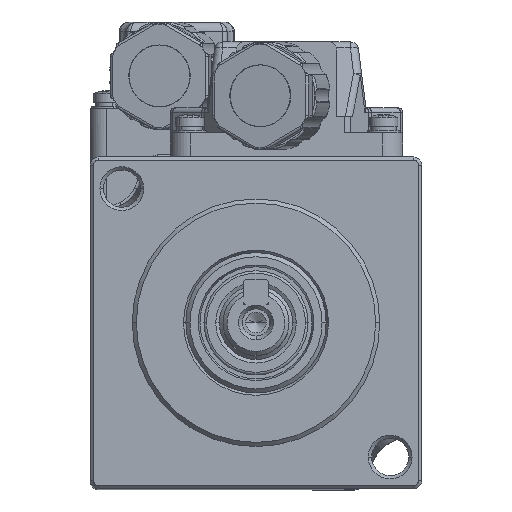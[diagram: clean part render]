
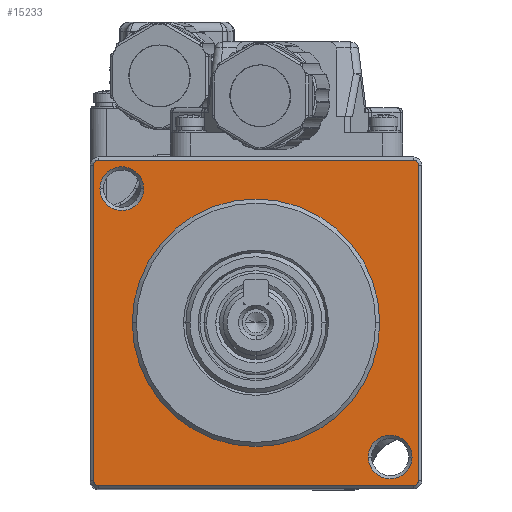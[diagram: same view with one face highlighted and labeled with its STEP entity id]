
A CAD part, top view. The second image highlights one B-rep face of the part: STEP entity #15233.
In plain terms, the highlighted planar face has unit normal (0, 0, 1).
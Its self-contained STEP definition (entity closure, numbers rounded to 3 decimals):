
#114 = DIRECTION ( 'NONE',  ( 0., 0., 1. ) ) ;
#158 = EDGE_CURVE ( 'NONE', #16763, #49095, #19000, .T. ) ;
#557 = DIRECTION ( 'NONE',  ( 0., 0., 1. ) ) ;
#702 = DIRECTION ( 'NONE',  ( 0., 0., 1. ) ) ;
#802 = DIRECTION ( 'NONE',  ( -1., 0., 0. ) ) ;
#842 = CARTESIAN_POINT ( 'NONE',  ( 16.263, -16.263, -47.73 ) ) ;
#898 = VECTOR ( 'NONE', #5597, 1000. ) ;
#2348 = DIRECTION ( 'NONE',  ( -1., 0., 0. ) ) ;
#2447 = EDGE_CURVE ( 'NONE', #49095, #44017, #53900, .T. ) ;
#2562 = FACE_BOUND ( 'NONE', #7030, .T. ) ;
#2656 = DIRECTION ( 'NONE',  ( 0., 0., -1. ) ) ;
#3356 = DIRECTION ( 'NONE',  ( -1., 0., 0. ) ) ;
#3714 = CIRCLE ( 'NONE', #19693, 0.6 ) ;
#4203 = VERTEX_POINT ( 'NONE', #16019 ) ;
#5255 = VERTEX_POINT ( 'NONE', #36644 ) ;
#5597 = DIRECTION ( 'NONE',  ( 0., 1., 0. ) ) ;
#5722 = ORIENTED_EDGE ( 'NONE', *, *, #16461, .F. ) ;
#5725 = DIRECTION ( 'NONE',  ( -1., 0., 0. ) ) ;
#5853 = AXIS2_PLACEMENT_3D ( 'NONE', #40946, #49861, #36761 ) ;
#6731 = FACE_BOUND ( 'NONE', #31784, .T. ) ;
#7030 = EDGE_LOOP ( 'NONE', ( #10848, #5722 ) ) ;
#7133 = AXIS2_PLACEMENT_3D ( 'NONE', #14609, #114, #8452 ) ;
#7687 = VECTOR ( 'NONE', #38810, 1000. ) ;
#7700 = AXIS2_PLACEMENT_3D ( 'NONE', #40606, #35338, #40062 ) ;
#7764 = ORIENTED_EDGE ( 'NONE', *, *, #46613, .F. ) ;
#7769 = CIRCLE ( 'NONE', #38908, 2.65 ) ;
#8005 = CARTESIAN_POINT ( 'NONE',  ( 18.913, -16.263, -47.73 ) ) ;
#8452 = DIRECTION ( 'NONE',  ( -1., 0., 0. ) ) ;
#8571 = VERTEX_POINT ( 'NONE', #8681 ) ;
#8681 = CARTESIAN_POINT ( 'NONE',  ( 19.1, 19.7, -47.73 ) ) ;
#8943 = VECTOR ( 'NONE', #31765, 1000. ) ;
#9008 = LINE ( 'NONE', #35730, #7687 ) ;
#9161 = CARTESIAN_POINT ( 'NONE',  ( 19.1, -19.7, -47.73 ) ) ;
#9765 = LINE ( 'NONE', #43768, #898 ) ;
#10229 = EDGE_CURVE ( 'NONE', #48013, #45347, #7769, .T. ) ;
#10848 = ORIENTED_EDGE ( 'NONE', *, *, #52660, .F. ) ;
#11726 = EDGE_CURVE ( 'NONE', #5255, #32413, #3714, .T. ) ;
#12273 = CIRCLE ( 'NONE', #34506, 15. ) ;
#12494 = CARTESIAN_POINT ( 'NONE',  ( -19.7, -19.1, -47.73 ) ) ;
#13359 = DIRECTION ( 'NONE',  ( -1., 0., 0. ) ) ;
#14372 = ORIENTED_EDGE ( 'NONE', *, *, #29534, .F. ) ;
#14394 = AXIS2_PLACEMENT_3D ( 'NONE', #33430, #30563, #802 ) ;
#14609 = CARTESIAN_POINT ( 'NONE',  ( -16.263, 16.263, -47.73 ) ) ;
#14649 = CARTESIAN_POINT ( 'NONE',  ( 15., 0., -47.73 ) ) ;
#15233 = ADVANCED_FACE ( 'NONE', ( #32060, #6731, #2562, #36535 ), #49909, .T. ) ;
#15287 = CARTESIAN_POINT ( 'NONE',  ( 19.7, 19.1, -47.73 ) ) ;
#15362 = AXIS2_PLACEMENT_3D ( 'NONE', #54452, #2656, #19631 ) ;
#16019 = CARTESIAN_POINT ( 'NONE',  ( 13.613, -16.263, -47.73 ) ) ;
#16461 = EDGE_CURVE ( 'NONE', #27246, #4203, #50947, .T. ) ;
#16763 = VERTEX_POINT ( 'NONE', #15287 ) ;
#17132 = AXIS2_PLACEMENT_3D ( 'NONE', #842, #557, #13359 ) ;
#17192 = CARTESIAN_POINT ( 'NONE',  ( -18.913, 16.263, -47.73 ) ) ;
#18592 = ORIENTED_EDGE ( 'NONE', *, *, #2447, .F. ) ;
#19000 = LINE ( 'NONE', #23435, #8943 ) ;
#19122 = CARTESIAN_POINT ( 'NONE',  ( -19.1, 19.1, -47.73 ) ) ;
#19631 = DIRECTION ( 'NONE',  ( -1., 0., 0. ) ) ;
#19693 = AXIS2_PLACEMENT_3D ( 'NONE', #19122, #52850, #39729 ) ;
#20142 = ORIENTED_EDGE ( 'NONE', *, *, #29470, .F. ) ;
#20642 = EDGE_CURVE ( 'NONE', #53063, #50678, #35695, .T. ) ;
#21948 = CIRCLE ( 'NONE', #7700, 2.65 ) ;
#23435 = CARTESIAN_POINT ( 'NONE',  ( 19.7, -15.5, -47.73 ) ) ;
#24008 = ORIENTED_EDGE ( 'NONE', *, *, #11726, .F. ) ;
#25042 = AXIS2_PLACEMENT_3D ( 'NONE', #26871, #44440, #5725 ) ;
#25614 = ORIENTED_EDGE ( 'NONE', *, *, #40992, .F. ) ;
#25745 = DIRECTION ( 'NONE',  ( -1., 0., 0. ) ) ;
#26871 = CARTESIAN_POINT ( 'NONE',  ( 19.1, 19.1, -47.73 ) ) ;
#27246 = VERTEX_POINT ( 'NONE', #8005 ) ;
#27672 = DIRECTION ( 'NONE',  ( 0., 0., 1. ) ) ;
#28898 = ORIENTED_EDGE ( 'NONE', *, *, #158, .F. ) ;
#29470 = EDGE_CURVE ( 'NONE', #44017, #31560, #32684, .T. ) ;
#29534 = EDGE_CURVE ( 'NONE', #45347, #48013, #37260, .T. ) ;
#30563 = DIRECTION ( 'NONE',  ( 0., 0., 1. ) ) ;
#30971 = EDGE_CURVE ( 'NONE', #35114, #5255, #9765, .T. ) ;
#31285 = CARTESIAN_POINT ( 'NONE',  ( 0., 0., -47.73 ) ) ;
#31560 = VERTEX_POINT ( 'NONE', #44729 ) ;
#31765 = DIRECTION ( 'NONE',  ( 0., -1., 0. ) ) ;
#31784 = EDGE_LOOP ( 'NONE', ( #14372, #34054 ) ) ;
#32060 = FACE_OUTER_BOUND ( 'NONE', #51875, .T. ) ;
#32413 = VERTEX_POINT ( 'NONE', #54623 ) ;
#32684 = LINE ( 'NONE', #40234, #52382 ) ;
#33272 = EDGE_CURVE ( 'NONE', #50678, #53063, #12273, .T. ) ;
#33430 = CARTESIAN_POINT ( 'NONE',  ( 0., -15., -47.73 ) ) ;
#33917 = CIRCLE ( 'NONE', #25042, 0.6 ) ;
#34054 = ORIENTED_EDGE ( 'NONE', *, *, #10229, .F. ) ;
#34506 = AXIS2_PLACEMENT_3D ( 'NONE', #35773, #27672, #43886 ) ;
#34525 = CARTESIAN_POINT ( 'NONE',  ( -15., 0., -47.73 ) ) ;
#35105 = ORIENTED_EDGE ( 'NONE', *, *, #20642, .F. ) ;
#35114 = VERTEX_POINT ( 'NONE', #12494 ) ;
#35338 = DIRECTION ( 'NONE',  ( 0., 0., 1. ) ) ;
#35695 = CIRCLE ( 'NONE', #49944, 15. ) ;
#35730 = CARTESIAN_POINT ( 'NONE',  ( 0., 19.7, -47.73 ) ) ;
#35773 = CARTESIAN_POINT ( 'NONE',  ( 0., 0., -47.73 ) ) ;
#36535 = FACE_BOUND ( 'NONE', #50653, .T. ) ;
#36644 = CARTESIAN_POINT ( 'NONE',  ( -19.7, 19.1, -47.73 ) ) ;
#36761 = DIRECTION ( 'NONE',  ( -1., 0., 0. ) ) ;
#37260 = CIRCLE ( 'NONE', #7133, 2.65 ) ;
#37612 = DIRECTION ( 'NONE',  ( 0., 0., 1. ) ) ;
#38810 = DIRECTION ( 'NONE',  ( 1., 0., 0. ) ) ;
#38908 = AXIS2_PLACEMENT_3D ( 'NONE', #42067, #37612, #3356 ) ;
#39674 = EDGE_CURVE ( 'NONE', #8571, #16763, #33917, .T. ) ;
#39729 = DIRECTION ( 'NONE',  ( -1., 0., 0. ) ) ;
#40062 = DIRECTION ( 'NONE',  ( -1., 0., 0. ) ) ;
#40234 = CARTESIAN_POINT ( 'NONE',  ( 0., -19.7, -47.73 ) ) ;
#40606 = CARTESIAN_POINT ( 'NONE',  ( 16.263, -16.263, -47.73 ) ) ;
#40946 = CARTESIAN_POINT ( 'NONE',  ( 19.1, -19.1, -47.73 ) ) ;
#40992 = EDGE_CURVE ( 'NONE', #31560, #35114, #49148, .T. ) ;
#42067 = CARTESIAN_POINT ( 'NONE',  ( -16.263, 16.263, -47.73 ) ) ;
#43768 = CARTESIAN_POINT ( 'NONE',  ( -19.7, -15.5, -47.73 ) ) ;
#43886 = DIRECTION ( 'NONE',  ( -1., 0., 0. ) ) ;
#44017 = VERTEX_POINT ( 'NONE', #9161 ) ;
#44440 = DIRECTION ( 'NONE',  ( 0., 0., -1. ) ) ;
#44605 = CARTESIAN_POINT ( 'NONE',  ( -13.613, 16.263, -47.73 ) ) ;
#44729 = CARTESIAN_POINT ( 'NONE',  ( -19.1, -19.7, -47.73 ) ) ;
#45347 = VERTEX_POINT ( 'NONE', #17192 ) ;
#46613 = EDGE_CURVE ( 'NONE', #32413, #8571, #9008, .T. ) ;
#47721 = ORIENTED_EDGE ( 'NONE', *, *, #39674, .F. ) ;
#47814 = ORIENTED_EDGE ( 'NONE', *, *, #30971, .F. ) ;
#48013 = VERTEX_POINT ( 'NONE', #44605 ) ;
#48703 = CARTESIAN_POINT ( 'NONE',  ( 19.7, -19.1, -47.73 ) ) ;
#49095 = VERTEX_POINT ( 'NONE', #48703 ) ;
#49148 = CIRCLE ( 'NONE', #15362, 0.6 ) ;
#49861 = DIRECTION ( 'NONE',  ( 0., 0., -1. ) ) ;
#49909 = PLANE ( 'NONE',  #14394 ) ;
#49944 = AXIS2_PLACEMENT_3D ( 'NONE', #31285, #702, #25745 ) ;
#50653 = EDGE_LOOP ( 'NONE', ( #52731, #35105 ) ) ;
#50678 = VERTEX_POINT ( 'NONE', #34525 ) ;
#50947 = CIRCLE ( 'NONE', #17132, 2.65 ) ;
#51875 = EDGE_LOOP ( 'NONE', ( #47721, #7764, #24008, #47814, #25614, #20142, #18592, #28898 ) ) ;
#52382 = VECTOR ( 'NONE', #2348, 1000. ) ;
#52660 = EDGE_CURVE ( 'NONE', #4203, #27246, #21948, .T. ) ;
#52731 = ORIENTED_EDGE ( 'NONE', *, *, #33272, .F. ) ;
#52850 = DIRECTION ( 'NONE',  ( 0., 0., -1. ) ) ;
#53063 = VERTEX_POINT ( 'NONE', #14649 ) ;
#53900 = CIRCLE ( 'NONE', #5853, 0.6 ) ;
#54452 = CARTESIAN_POINT ( 'NONE',  ( -19.1, -19.1, -47.73 ) ) ;
#54623 = CARTESIAN_POINT ( 'NONE',  ( -19.1, 19.7, -47.73 ) ) ;
